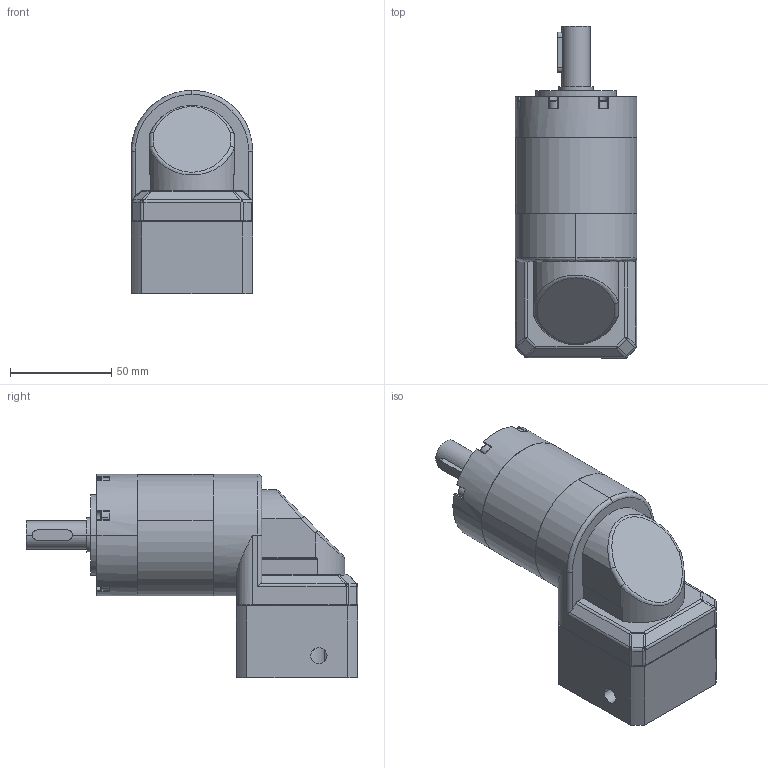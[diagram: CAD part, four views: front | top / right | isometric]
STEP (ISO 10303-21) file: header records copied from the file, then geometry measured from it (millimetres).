
FILE_DESCRIPTION (( 'STEP AP203' ), '1' );
FILE_NAME ('PVEA060-L2-11-50-70.STEP', '2026-09-21T06:38:11', ( 'Windows User' ), ( 'P R C' ), 'SwSTEP 2.0', 'SolidWorks 2016', '' );
FILE_SCHEMA (( 'CONFIG_CONTROL_DESIGN' ));
Length unit declared in the file: millimetre
Products named in the file (9): 囀鞠褒蹟佪-M5℅16; 邧埴瑩  5x5x20; PVEA60-眊极_揤翉陔眊极; PVEA60 內齿圈_二级内齿圈; PVEA060-L2-11-50-70; B-PRL60 奻屳唳; PVEA60-薊粣-11; 双列角接触球轴承5203_2; PVEA60-蟀諉啣
Assembly tree (8 placements, depth 2):
  PVEA060-L2-11-50-70
    B-PRL60 奻屳唳
    PVEA60-薊粣-11
    双列角接触球轴承5203_2
    PVEA60-蟀諉啣
    囀鞠褒蹟佪-M5℅16
    邧埴瑩  5x5x20
    PVEA60-眊极_揤翉陔眊极
    PVEA60 內齿圈_二级内齿圈
Bounding box: 60 x 164 x 100.5 mm (x, y, z)
Volume: 406437.5 mm3; surface area: 101054.7 mm2
Topology: 8 solids, 8 shells, 1182 faces, 3217 edges, 2091 vertices
Faces by surface type: plane 566, bspline 292, cylinder 274, cone 50
Entity records: 47311 total; most frequent: CARTESIAN_POINT 18255, ORIENTED_EDGE 6334, DIRECTION 5100, EDGE_CURVE 3167, VERTEX_POINT 2085, LINE 1738, VECTOR 1738, AXIS2_PLACEMENT_3D 1681
